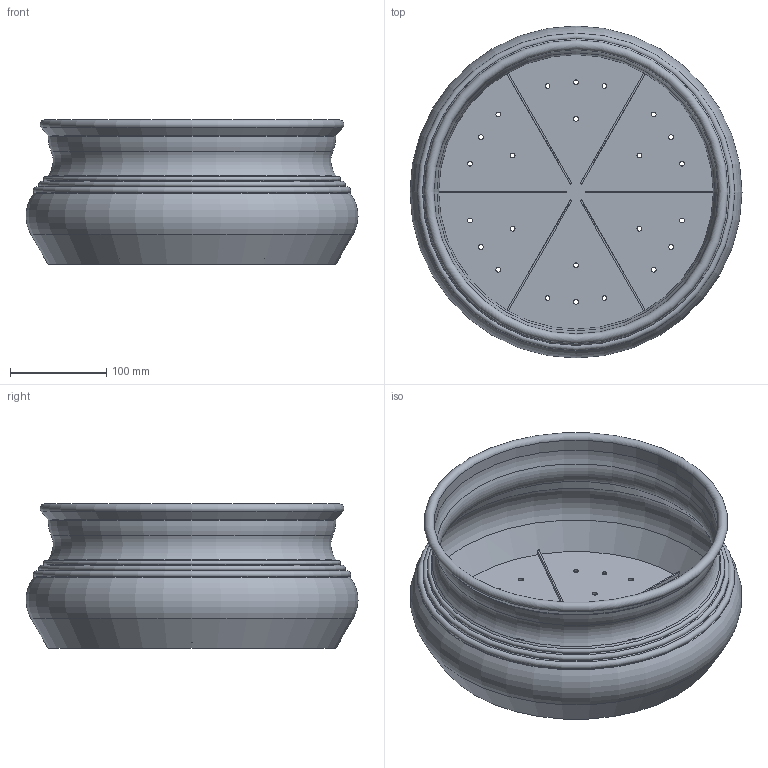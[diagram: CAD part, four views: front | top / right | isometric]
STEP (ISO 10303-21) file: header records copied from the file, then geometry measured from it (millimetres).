
FILE_DESCRIPTION(/* description */ (''),/* implementation_level */ '2;1');
FILE_NAME(/* name */ 'LR2406-S17-H150-D350_step.step',/* time_stamp */ '2024-02-01T11:03:43+01:00',/* author */ (''),/* organization */ (''),/* preprocessor_version */ 'ST-DEVELOPER v20',/* originating_system */ 'Autodesk Translation Framework v12.20.1.177',/* authorisation */ '');
FILE_SCHEMA (('AUTOMOTIVE_DESIGN { 1 0 10303 214 3 1 1 }'));
Length unit declared in the file: millimetre
Products named in the file (1): LR2406-S17-H150-D350
Bounding box: 344.71 x 344.71 x 150 mm (x, y, z)
Volume: 536321.9 mm3; surface area: 484222.2 mm2
Topology: 1 solids, 1 shells, 70 faces, 185 edges, 117 vertices
Faces by surface type: cylinder 32, plane 20, torus 10, cone 8
Full cylindrical faces by diameter (mm): 5 x24, 295.36 x1, 298.72 x1
Entity records: 2336 total; most frequent: DIRECTION 430, CARTESIAN_POINT 373, ORIENTED_EDGE 370, EDGE_CURVE 185, AXIS2_PLACEMENT_3D 174, EDGE_LOOP 118, VERTEX_POINT 117, CIRCLE 103
